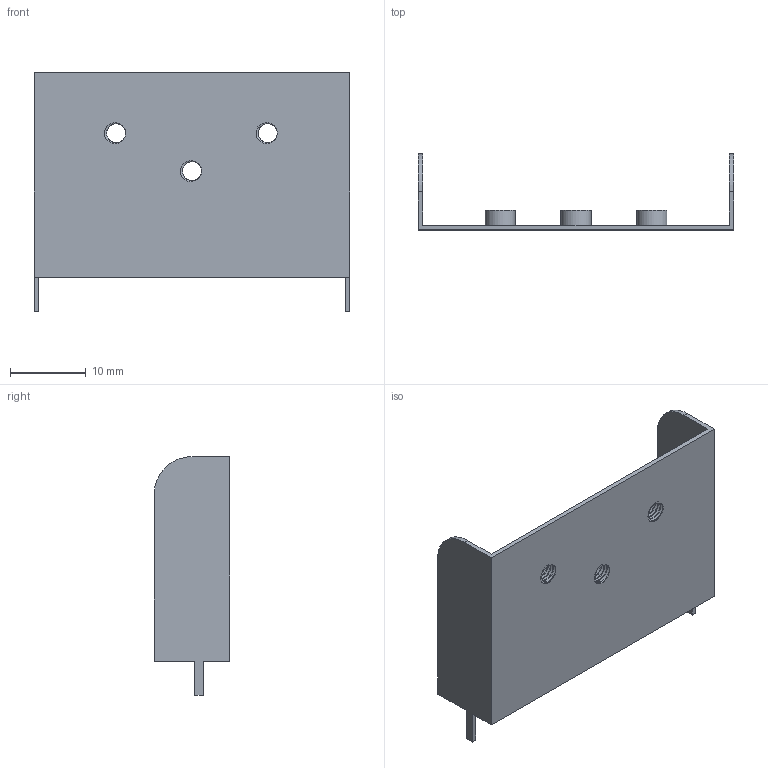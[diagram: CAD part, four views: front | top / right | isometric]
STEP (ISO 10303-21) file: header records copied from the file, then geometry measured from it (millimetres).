
FILE_DESCRIPTION(/* description */ ('','CAx-IF Rec.Pracs.---Representation and Presentation of Product Manufacturing Information (PMI)---4.0---2014-10-13'),/* implementation_level */ '2;1');
FILE_NAME(/* name */ 'TypeB-1-0.6.step',/* time_stamp */ '2025-01-27T02:25:59+09:00',/* author */ (''),/* organization */ (''),/* preprocessor_version */ 'ST-DEVELOPER v20',/* originating_system */ 'Autodesk Translation Framework v13.20.0.188',/* authorisation */ '');
FILE_SCHEMA (('AP242_MANAGED_MODEL_BASED_3D_ENGINEERING_MIM_LF { 1 0 10303 442 1 1 4 }'));
Length unit declared in the file: millimetre
Products named in the file (1): (未保存)
Bounding box: 41.6 x 10 x 31.5 mm (x, y, z)
Volume: 1006.9 mm3; surface area: 3525.2 mm2
Topology: 1 solids, 1 shells, 74 faces, 207 edges, 138 vertices
Faces by surface type: cylinder 41, plane 21, bspline 12
Full cylindrical faces by diameter (mm): 2.529 x9, 3.086 x6, 4 x3
Entity records: 5662 total; most frequent: CARTESIAN_POINT 3924, ORIENTED_EDGE 414, DIRECTION 253, EDGE_CURVE 207, VERTEX_POINT 138, B_SPLINE_CURVE_WITH_KNOTS 102, AXIS2_PLACEMENT_3D 85, EDGE_LOOP 83
